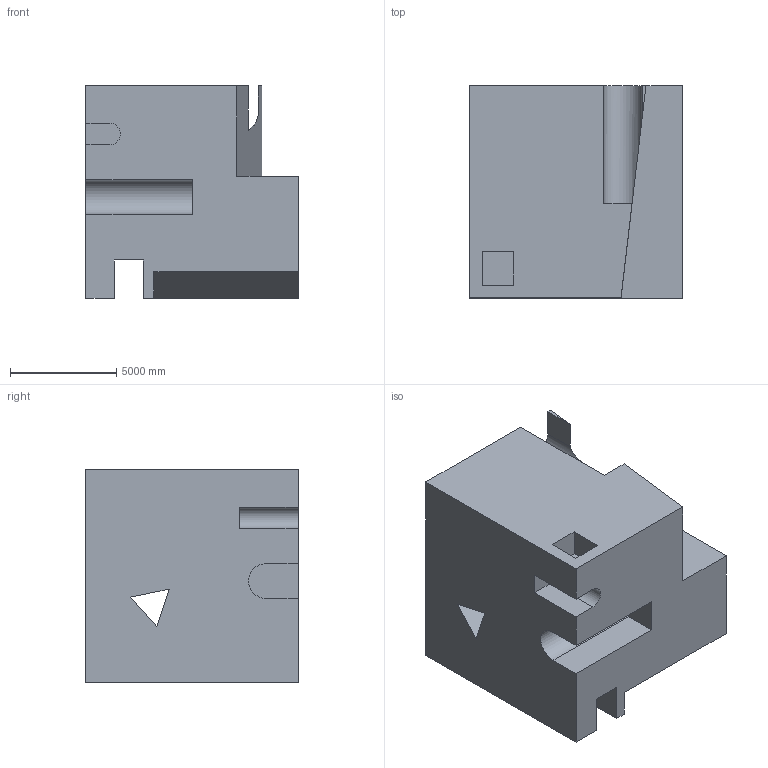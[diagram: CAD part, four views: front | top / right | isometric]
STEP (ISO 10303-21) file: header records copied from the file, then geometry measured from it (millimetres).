
FILE_DESCRIPTION (( 'STEP AP203' ), '1' );
FILE_NAME ('795.STEP', '2022-08-04T15:53:47', ( 'user' ), ( '' ), 'SwSTEP 2.0', 'SolidWorks 2021', '' );
FILE_SCHEMA (( 'CONFIG_CONTROL_DESIGN' ));
Length unit declared in the file: centimetre
Products named in the file (1): 795
Bounding box: 10000 x 10000 x 10000 mm (x, y, z)
Volume: 812509021967.6 mm3; surface area: 698855046.9 mm2
Topology: 1 solids, 1 shells, 35 faces, 96 edges, 64 vertices
Faces by surface type: plane 32, cylinder 3
Entity records: 1177 total; most frequent: CARTESIAN_POINT 199, ORIENTED_EDGE 192, DIRECTION 173, EDGE_CURVE 96, LINE 89, VECTOR 89, VERTEX_POINT 64, AXIS2_PLACEMENT_3D 42
